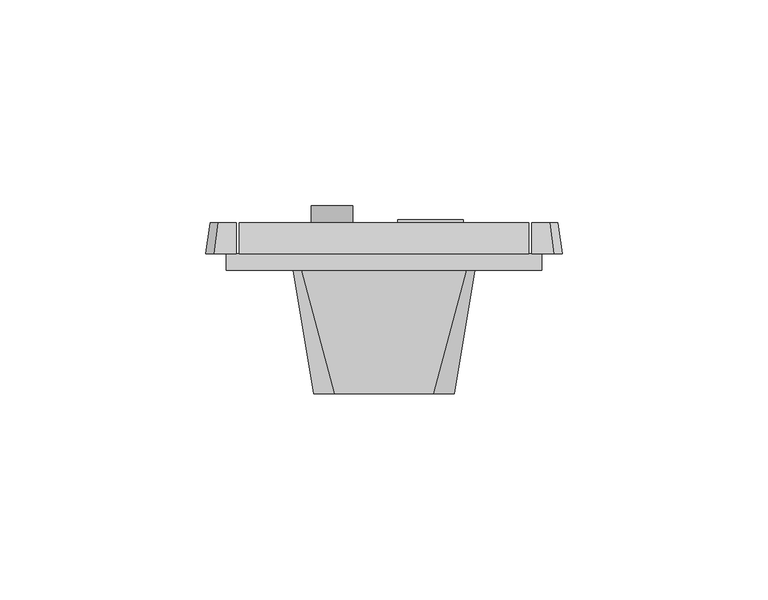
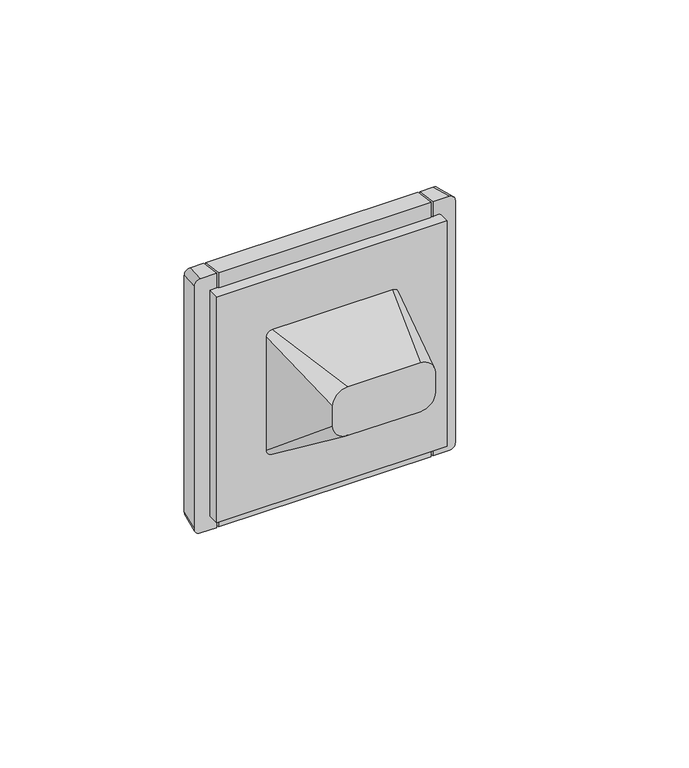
"""IFC4 building model written with IfcOpenShell, lengths in millimetres: proxy geometry, IEK_Forte&Piano_Розекта мультимедийная : TV+RJ45 к5E_FP136."""

from ifc_helpers import new_model, si_unit, point, frame, origin, place, context, project, spatial, polyline, circle_curve, trimmed, outline, extrude, faceted_brep, source, transform, mapped, element, save
from ifc_brep_helpers import plane_surface, cylinder_surface, revolved_surface, extruded_surface, spline_surface, advanced_brep


def electrical_fixtures_297cfc8e(model_context):
    return source(origin(), model_context, "Body", "SolidModel", [
        advanced_brep(
        [(-22.7, 11.5, 22.7), (22.7, 11.5, 22.7), (22.7, 11.5, -22.7), (-22.7, 11.5, -22.7), (21.1505633, 11.5, -10.479217), (21.1505633, 11.5, 10.625), (19.2793179, 11.5, 10.625), (3.3589657, 11.5, 10.625), (1.1505633, 11.5, 10.625), (1.1505633, 11.5, -10.479217), (-19.6284308, 11.5, 0.0), (-5.6284308, 11.5, 0.0), (-22.7, 4.0, 22.7), (-22.7, 4.0, -22.7), (22.7, 4.0, -22.7), (22.7, 4.0, 22.7), (-5.6284308, 4.0, 0.0), (-19.6284308, 4.0, 0.0), (21.1505633, 5.8684205, -4.8476375), (1.1505633, 5.8684205, -4.8476375), (3.3589657, 6.6767352, -2.626811), (19.2793179, 6.6767352, -2.626811), (19.2793179, 5.7370426, -2.2847909), (3.3589657, 5.7370426, -2.2847909), (3.3589657, 10.5603074, 10.9670201), (19.2793179, 10.5603074, 10.9670201)],
        [
            (0, 1),
            (1, 2),
            (2, 3),
            (3, 0),
            (4, 5),
            (5, 6),
            (6, 7),
            (7, 8),
            (8, 9),
            (9, 4),
            (10, 11, circle_curve(frame((-12.6284308, 11.5, 0.0), z_axis=(0.0, -1.0, 0.0), x_axis=(1.0, 0.0, 0.0)), 7.0)),
            (11, 10, circle_curve(frame((-12.6284308, 11.5, 0.0), z_axis=(0.0, -1.0, 0.0), x_axis=(1.0, 0.0, 0.0)), 7.0)),
            (12, 13),
            (13, 14),
            (14, 15),
            (15, 12),
            (16, 17, circle_curve(frame((-12.6284308, 4.0, 0.0), z_axis=(0.0, 1.0, 0.0), x_axis=(1.0, 0.0, 0.0)), 7.0)),
            (17, 16, circle_curve(frame((-12.6284308, 4.0, 0.0), z_axis=(0.0, 1.0, 0.0), x_axis=(1.0, 0.0, 0.0)), 7.0)),
            (3, 13),
            (12, 0),
            (2, 14),
            (1, 15),
            (18, 5),
            (4, 18),
            (19, 9),
            (8, 19),
            (19, 18),
            (7, 20),
            (20, 21),
            (21, 6),
            (22, 23),
            (23, 24),
            (24, 25),
            (25, 22),
            (25, 6),
            (21, 22),
            (24, 7),
            (23, 20),
            (10, 17),
            (16, 11),
        ],
        [
            plane_surface(frame((-22.7, 11.5, 22.7), z_axis=(0.0, 1.0, 0.0), x_axis=(0.0, 0.0, 1.0))),
            plane_surface(frame((-22.7, 4.0, 22.7), z_axis=(0.0, -1.0, 0.0), x_axis=(0.0, 0.0, -1.0))),
            plane_surface(frame((-22.7, 4.0, 22.7), z_axis=(-1.0, 0.0, 0.0), x_axis=(0.0, 1.0, 0.0))),
            plane_surface(frame((-22.7, 4.0, -22.7), z_axis=(0.0, 0.0, -1.0), x_axis=(0.0, 1.0, 0.0))),
            plane_surface(frame((22.7, 4.0, -22.7), z_axis=(1.0, 0.0, 0.0), x_axis=(0.0, 1.0, 0.0))),
            plane_surface(frame((22.7, 4.0, 22.7), z_axis=(0.0, 0.0, 1.0), x_axis=(0.0, 1.0, 0.0))),
            plane_surface(frame((21.1505633, 5.8684205, -4.8476375), z_axis=(-1.0000000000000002, 0.0, 0.0), x_axis=(0.0, 0.7071067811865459, -0.7071067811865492))),
            plane_surface(frame((1.1505633, 5.8684205, -4.8476375), z_axis=(1.0000000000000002, 0.0, 0.0), x_axis=(0.0, -0.7071067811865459, 0.7071067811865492))),
            plane_surface(frame((21.1505633, 5.8684205, -4.8476375), z_axis=(0.0, 0.7071067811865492, 0.7071067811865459), x_axis=(-1.0, 0.0, 0.0))),
            plane_surface(frame((21.1505633, 11.5, 10.625), z_axis=(0.0, 0.9396926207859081, -0.3420201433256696), x_axis=(-1.0, 0.0, 0.0))),
            plane_surface(frame((19.2793179, 10.5603074, 10.9670201), z_axis=(0.0, 0.9396926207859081, -0.34202014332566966), x_axis=(0.0, 0.34202014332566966, 0.9396926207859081))),
            plane_surface(frame((19.2793179, 5.7370426, -2.2847909), z_axis=(-1.0, 0.0, 0.0), x_axis=(0.0, 0.939692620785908, -0.34202014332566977))),
            plane_surface(frame((19.2793179, 10.5603074, 10.9670201), z_axis=(0.0, -0.34202014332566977, -0.939692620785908), x_axis=(0.0, 0.939692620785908, -0.34202014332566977))),
            plane_surface(frame((3.3589657, 10.5603074, 10.9670201), z_axis=(1.0, 0.0, 0.0), x_axis=(0.0, 0.939692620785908, -0.34202014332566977))),
            plane_surface(frame((3.3589657, 5.7370426, -2.2847909), z_axis=(0.0, 0.34202014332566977, 0.939692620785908), x_axis=(0.0, 0.939692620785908, -0.34202014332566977))),
            revolved_surface(polyline([(-5.6284308, 4.0, 0.0), (-5.6284308, 11.5, 0.0)]), (-12.6284308, 11.5, 0.0), (0.0, -1.0, 0.0)),
        ],
        [
            (0, [[1, 2, 3, 4], [5, 6, 7, 8, 9, 10], [11, 12]]),
            (1, [[13, 14, 15, 16], [17, 18]]),
            (2, [[-4, 19, -13, 20]]),
            (3, [[-3, 21, -14, -19]]),
            (4, [[-2, 22, -15, -21]]),
            (5, [[-1, -20, -16, -22]]),
            (6, [[23, -5, 24]]),
            (7, [[25, -9, 26]]),
            (8, [[-24, -10, -25, 27]]),
            (9, [[-23, -27, -26, -8, 28, 29, 30, -6]]),
            (10, [[31, 32, 33, 34]]),
            (11, [[-34, 35, -30, 36]]),
            (12, [[-33, 37, -7, -35]]),
            (13, [[-32, 38, -28, -37]]),
            (14, [[-31, -36, -29, -38]]),
            (15, [[39, -17, 40, -11]]),
            (15, [[-39, -12, -40, -18]]),
        ],
    ),
        extrude(outline(polyline([(0.0, -2.0472767), (0.0, 0.0), (15.9203522, 0.0), (15.9203522, -2.0472767), (0.0, -2.0472767)])), frame((3.3589657, 11.9018122, 8.6669379), z_axis=(0.0, 0.3420201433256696, 0.9396926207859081), x_axis=(1.0, 0.0, 0.0)), (0.0, 0.0, 1.0), 1.1350324),
        advanced_brep(
        [(-12.6284308, 14.7712404, 0.0), (-11.7257819, 14.7712404, 0.0), (-13.5310797, 14.7712404, 0.0), (-13.5310797, 4.0, 0.0), (-11.7257819, 4.0, 0.0), (-12.6284308, 4.0, 0.0)],
        [
            (0, 1),
            (1, 2, circle_curve(frame((-12.6284308, 14.7712404, 0.0), z_axis=(0.0, 1.0, 0.0), x_axis=(1.0, 0.0, 0.0)), 0.9026489)),
            (2, 0),
            (2, 1, circle_curve(frame((-12.6284308, 14.7712404, 0.0), z_axis=(0.0, 1.0, 0.0), x_axis=(1.0, 0.0, 0.0)), 0.9026489)),
            (3, 4, circle_curve(frame((-12.6284308, 4.0, 0.0), z_axis=(0.0, -1.0, 0.0), x_axis=(1.0, 0.0, 0.0)), 0.9026489)),
            (4, 5),
            (5, 3),
            (4, 3, circle_curve(frame((-12.6284308, 4.0, 0.0), z_axis=(0.0, -1.0, 0.0), x_axis=(1.0, 0.0, 0.0)), 0.9026489)),
            (1, 4),
            (3, 2),
        ],
        [
            plane_surface(frame((-12.6284308, 14.7712404, 0.0), z_axis=(0.0, 1.0, 0.0), x_axis=(1.0, 0.0, 0.0))),
            plane_surface(frame((-12.6284308, 4.0, 0.0), z_axis=(0.0, -1.0, 0.0), x_axis=(1.0, 0.0, 0.0))),
            cylinder_surface(frame((-12.6284308, 1.5, 0.0), z_axis=(0.0, 1.0, 0.0), x_axis=(1.0, 0.0, 0.0)), 0.9026489),
        ],
        [
            (0, [[1, 2, 3]]),
            (0, [[-3, 4, -1]]),
            (1, [[5, 6, 7]]),
            (1, [[8, -7, -6]]),
            (2, [[-2, 9, -5, 10]]),
            (2, [[-4, -10, -8, -9]]),
        ],
    ),
        advanced_brep(
        [(-17.6284308, 4.0, 0.0), (-7.6284308, 4.0, 0.0), (-8.6079002, 4.0, 0.0), (-16.6489614, 4.0, 0.0), (-8.6079002, 12.5, 0.0), (-16.6489614, 12.5, 0.0), (-8.6079002, 15.6430385, 0.0), (-16.6489614, 15.6430385, 0.0), (-7.6284308, 15.6430385, 0.0), (-17.6284308, 15.6430385, 0.0)],
        [
            (0, 1, circle_curve(frame((-12.6284308, 4.0, 0.0), z_axis=(0.0, -1.0, 0.0), x_axis=(1.0, 0.0, 0.0)), 5.0)),
            (1, 2),
            (2, 3, circle_curve(frame((-12.6284308, 4.0, 0.0), z_axis=(0.0, 1.0, 0.0), x_axis=(1.0, 0.0, 0.0)), 4.0205306)),
            (3, 0),
            (1, 0, circle_curve(frame((-12.6284308, 4.0, 0.0), z_axis=(0.0, -1.0, 0.0), x_axis=(1.0, 0.0, 0.0)), 5.0)),
            (3, 2, circle_curve(frame((-12.6284308, 4.0, 0.0), z_axis=(0.0, 1.0, 0.0), x_axis=(1.0, 0.0, 0.0)), 4.0205306)),
            (2, 4),
            (4, 5, circle_curve(frame((-12.6284308, 12.5, 0.0), z_axis=(0.0, 1.0, 0.0), x_axis=(1.0, 0.0, 0.0)), 4.0205306)),
            (5, 3),
            (5, 4, circle_curve(frame((-12.6284308, 12.5, 0.0), z_axis=(0.0, 1.0, 0.0), x_axis=(1.0, 0.0, 0.0)), 4.0205306)),
            (4, 6),
            (6, 7, circle_curve(frame((-12.6284308, 15.6430385, 0.0), z_axis=(0.0, 1.0, 0.0), x_axis=(1.0, 0.0, 0.0)), 4.0205306)),
            (7, 5),
            (7, 6, circle_curve(frame((-12.6284308, 15.6430385, 0.0), z_axis=(0.0, 1.0, 0.0), x_axis=(1.0, 0.0, 0.0)), 4.0205306)),
            (6, 8),
            (8, 9, circle_curve(frame((-12.6284308, 15.6430385, 0.0), z_axis=(0.0, 1.0, 0.0), x_axis=(1.0, 0.0, 0.0)), 5.0)),
            (9, 7),
            (9, 8, circle_curve(frame((-12.6284308, 15.6430385, 0.0), z_axis=(0.0, 1.0, 0.0), x_axis=(1.0, 0.0, 0.0)), 5.0)),
            (8, 1),
            (0, 9),
        ],
        [
            plane_surface(frame((-12.6284308, 4.0, 0.0), z_axis=(0.0, -1.0, 0.0), x_axis=(1.0, 0.0, 0.0))),
            revolved_surface(polyline([(-8.6079002, 12.5, 0.0), (-8.6079002, 4.0, 0.0)]), (-12.6284308, 11.5, 0.0), (0.0, 1.0, 0.0)),
            revolved_surface(polyline([(-8.6079002, 15.6430385, 0.0), (-8.6079002, 12.5, 0.0)]), (-12.6284308, 11.5, 0.0), (0.0, 1.0, 0.0)),
            plane_surface(frame((-12.6284308, 15.6430385, 0.0), z_axis=(0.0, 1.0, 0.0), x_axis=(1.0, 0.0, 0.0))),
            cylinder_surface(frame((-12.6284308, 11.5, 0.0), z_axis=(0.0, 1.0, 0.0), x_axis=(1.0, 0.0, 0.0)), 5.0),
        ],
        [
            (0, [[1, 2, 3, 4]]),
            (0, [[5, -4, 6, -2]]),
            (1, [[-3, 7, 8, 9]]),
            (1, [[-6, -9, 10, -7]]),
            (2, [[-8, 11, 12, 13]]),
            (2, [[-10, -13, 14, -11]]),
            (3, [[-12, 15, 16, 17]]),
            (3, [[-14, -17, 18, -15]]),
            (4, [[-16, 19, -1, 20]]),
            (4, [[-18, -20, -5, -19]]),
        ],
    ),
        faceted_brep([(35.2, 11.5, 43.5), (35.2, 4.0, 44.5), (35.2, 4.0, -44.5), (35.2, 11.5, -43.5), (-35.2, 11.5, 43.5), (-35.2, 11.5, -43.5), (-35.2, 4.0, -44.5), (-35.2, 4.0, 44.5), (-23.5, 4.0, 23.5), (23.5, 4.0, 23.5), (23.5, 4.0, -23.5), (-23.5, 4.0, -23.5), (23.5, 11.5, 23.5), (-23.5, 11.5, 23.5), (-23.5, 11.5, -23.5), (23.5, 11.5, -23.5)], [[[0, 1, 2, 3]], [[4, 5, 6, 7]], [[1, 0, 4, 7]], [[2, 1, 7, 6], [8, 9, 10, 11]], [[3, 2, 6, 5]], [[0, 3, 5, 4], [12, 13, 14, 15]], [[8, 13, 12, 9]], [[9, 12, 15, 10]], [[10, 15, 14, 11]], [[13, 8, 11, 14]]]),
        advanced_brep(
        [(35.8576533, 11.5, 43.5), (35.8576533, 11.5, -43.5), (35.8576533, 4.0, -44.5), (35.8576533, 4.0, -39.5), (35.8576533, 4.0, 39.5), (35.8576533, 4.0, 44.5), (-35.8576533, 11.5, -43.5), (-35.8576533, 11.5, 43.5), (-35.8576533, 4.0, 44.5), (-35.8576533, 4.0, 39.5), (-35.8576533, 4.0, -39.5), (-35.8576533, 4.0, -44.5), (40.25, 11.5, 43.5), (42.25, 11.5, 41.5), (42.25, 11.5, -41.5), (40.25, 11.5, -43.5), (-40.25, 11.5, -43.5), (-42.25, 11.5, -41.5), (-42.25, 11.5, 41.5), (-40.25, 11.5, 43.5), (-41.25, 4.0, 44.5), (-43.25, 4.0, 42.5), (-43.25, 4.0, -42.5), (-41.25, 4.0, -44.5), (-38.25, 4.0, -39.5), (-38.25, 4.0, 39.5), (41.25, 4.0, -44.5), (43.25, 4.0, -42.5), (43.25, 4.0, 42.5), (41.25, 4.0, 44.5), (38.25, 4.0, 39.5), (38.25, 4.0, -39.5), (-38.25, 0.0, 39.5), (-38.25, 0.0, -39.5), (38.25, 0.0, -39.5), (38.25, 0.0, 39.5)],
        [
            (0, 1),
            (1, 2),
            (2, 3),
            (3, 4),
            (4, 5),
            (5, 0),
            (6, 7),
            (7, 8),
            (8, 9),
            (9, 10),
            (10, 11),
            (11, 6),
            (12, 13, circle_curve(frame((40.25, 11.5, 41.5), z_axis=(0.0, 1.0, 0.0), x_axis=(-1.0, 0.0, 0.0)), 2.0)),
            (13, 14),
            (14, 15, circle_curve(frame((40.25, 11.5, -41.5), z_axis=(0.0, 1.0, 0.0), x_axis=(-1.0, 0.0, 0.0)), 2.0)),
            (15, 1),
            (0, 12),
            (16, 17, circle_curve(frame((-40.25, 11.5, -41.5), z_axis=(0.0, 1.0, 0.0), x_axis=(-1.0, 0.0, 0.0)), 2.0)),
            (17, 18),
            (18, 19, circle_curve(frame((-40.25, 11.5, 41.5), z_axis=(0.0, 1.0, 0.0), x_axis=(-1.0, 0.0, 0.0)), 2.0)),
            (19, 7),
            (6, 16),
            (20, 21, circle_curve(frame((-41.25, 4.0, 42.5), z_axis=(0.0, -1.0, 0.0), x_axis=(-1.0, 0.0, 0.0)), 2.0)),
            (21, 22),
            (22, 23, circle_curve(frame((-41.25, 4.0, -42.5), z_axis=(0.0, -1.0, 0.0), x_axis=(-1.0, 0.0, 0.0)), 2.0)),
            (23, 11),
            (10, 24),
            (24, 25),
            (25, 9),
            (8, 20),
            (26, 27, circle_curve(frame((41.25, 4.0, -42.5), z_axis=(0.0, -1.0, 0.0), x_axis=(-1.0, 0.0, 0.0)), 2.0)),
            (27, 28),
            (28, 29, circle_curve(frame((41.25, 4.0, 42.5), z_axis=(0.0, -1.0, 0.0), x_axis=(-1.0, 0.0, 0.0)), 2.0)),
            (29, 5),
            (4, 30),
            (30, 31),
            (31, 3),
            (2, 26),
            (29, 12),
            (19, 20),
            (28, 13),
            (27, 14),
            (26, 15),
            (23, 16),
            (22, 17),
            (21, 18),
            (3, 10),
            (9, 4),
            (32, 33),
            (33, 34),
            (34, 35),
            (35, 32),
            (32, 25),
            (24, 33),
            (31, 34),
            (30, 35),
        ],
        [
            plane_surface(frame((35.8576533, 11.5, 44.5), z_axis=(-1.0, 0.0, 0.0), x_axis=(0.0, -1.0, 0.0))),
            plane_surface(frame((-35.8576533, 11.5, -44.5), z_axis=(1.0, 0.0, 0.0), x_axis=(0.0, -1.0, 0.0))),
            plane_surface(frame((0.0, 11.5, 0.0), z_axis=(0.0, 1.0, 0.0), x_axis=(1.0, 0.0, 0.0))),
            plane_surface(frame((0.0, 4.0, 0.0), z_axis=(0.0, -1.0, 0.0), x_axis=(1.0, 0.0, 0.0))),
            plane_surface(frame((0.0, 4.0, 44.5), z_axis=(0.0, 0.13216372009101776, 0.9912279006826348), x_axis=(1.0, 0.0, 0.0))),
            extruded_surface(trimmed(circle_curve(frame((41.25, 4.0, 42.5), z_axis=(0.0, 1.0, 0.0), x_axis=(-1.0, 0.0, 0.0)), 2.0), [point((41.25, 4.0, 44.5))], [point((43.25, 4.0, 42.5))], True, "CARTESIAN"), (-1.0, 7.5, -1.0), 7.632168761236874),
            plane_surface(frame((43.25, 4.0, 0.0), z_axis=(0.9912279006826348, 0.13216372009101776, 0.0), x_axis=(0.0, 0.0, -1.0))),
            extruded_surface(trimmed(circle_curve(frame((41.25, 4.0, -42.5), z_axis=(0.0, 1.0, 0.0), x_axis=(-1.0, 0.0, 0.0)), 2.0), [point((43.25, 4.0, -42.5))], [point((41.25, 4.0, -44.5))], True, "CARTESIAN"), (-1.0, 7.5, 1.0), 7.632168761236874),
            plane_surface(frame((0.0, 4.0, -44.5), z_axis=(0.0, 0.13216372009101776, -0.9912279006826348), x_axis=(-1.0, 0.0, 0.0))),
            extruded_surface(trimmed(circle_curve(frame((-41.25, 4.0, -42.5), z_axis=(0.0, 1.0, 0.0), x_axis=(-1.0, 0.0, 0.0)), 2.0), [point((-41.25, 4.0, -44.5))], [point((-43.25, 4.0, -42.5))], True, "CARTESIAN"), (1.0, 7.5, 1.0), 7.632168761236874),
            plane_surface(frame((-43.25, 4.0, 0.0), z_axis=(-0.9912279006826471, 0.13216372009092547, 0.0), x_axis=(0.0, 0.0, 1.0))),
            extruded_surface(trimmed(circle_curve(frame((-41.25, 4.0, 42.5), z_axis=(0.0, 1.0, 0.0), x_axis=(-1.0, 0.0, 0.0)), 2.0), [point((-43.25, 4.0, 42.5))], [point((-41.25, 4.0, 44.5))], True, "CARTESIAN"), (1.0, 7.5, -1.0), 7.632168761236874),
            plane_surface(frame((-38.25, 4.0, 39.5), z_axis=(0.0, 1.0, 0.0), x_axis=(0.0, 0.0, 1.0))),
            plane_surface(frame((-38.25, 0.0, 39.5), z_axis=(0.0, -1.0, 0.0), x_axis=(0.0, 0.0, -1.0))),
            plane_surface(frame((-38.25, 0.0, 39.5), z_axis=(-1.0, 0.0, 0.0), x_axis=(0.0, 1.0, 0.0))),
            plane_surface(frame((-38.25, 0.0, -39.5), z_axis=(0.0, 0.0, -1.0), x_axis=(0.0, 1.0, 0.0))),
            plane_surface(frame((38.25, 0.0, -39.5), z_axis=(1.0, 0.0, 0.0), x_axis=(0.0, 1.0, 0.0))),
            plane_surface(frame((38.25, 0.0, 39.5), z_axis=(0.0, 0.0, 1.0), x_axis=(0.0, 1.0, 0.0))),
        ],
        [
            (0, [[1, 2, 3, 4, 5, 6]]),
            (1, [[7, 8, 9, 10, 11, 12]]),
            (2, [[13, 14, 15, 16, -1, 17]]),
            (2, [[18, 19, 20, 21, -7, 22]]),
            (3, [[23, 24, 25, 26, -11, 27, 28, 29, -9, 30]]),
            (3, [[31, 32, 33, 34, -5, 35, 36, 37, -3, 38]]),
            (4, [[39, -17, -6, -34]]),
            (4, [[40, -30, -8, -21]]),
            (5, [[-13, -39, -33, 41]]),
            (6, [[-14, -41, -32, 42]]),
            (7, [[-15, -42, -31, 43]]),
            (8, [[-43, -38, -2, -16]]),
            (8, [[44, -22, -12, -26]]),
            (9, [[-18, -44, -25, 45]]),
            (10, [[-19, -45, -24, 46]]),
            (11, [[-20, -46, -23, -40]]),
            (12, [[47, -10, 48, -4]]),
            (13, [[49, 50, 51, 52]]),
            (14, [[-49, 53, -28, 54]]),
            (15, [[-50, -54, -27, -47, -37, 55]]),
            (16, [[-51, -55, -36, 56]]),
            (17, [[-52, -56, -35, -48, -29, -53]]),
        ],
    ),
        advanced_brep(
        [(-12.0, -30.0, 17.0), (-17.0, -30.0, 12.0), (-17.0, -30.0, 5.0), (-12.0, -30.0, 0.0), (12.0, -30.0, 0.0), (17.0, -30.0, 5.0), (17.0, -30.0, 12.0), (12.0, -30.0, 17.0), (-20.0, 0.0, 22.0), (20.0, 0.0, 22.0), (22.0, 0.0, 20.0), (22.0, 0.0, -20.0), (20.0, 0.0, -22.0), (-20.0, 0.0, -22.0), (-22.0, 0.0, -20.0), (-22.0, 0.0, 20.0)],
        [
            (0, 1, circle_curve(frame((-12.0, -30.0, 12.0), z_axis=(0.0, -1.0, 0.0), x_axis=(1.0, 0.0, 0.0)), 5.0)),
            (1, 2),
            (2, 3, circle_curve(frame((-12.0, -30.0, 5.0), z_axis=(0.0, -1.0, 0.0), x_axis=(1.0, 0.0, 0.0)), 5.0)),
            (3, 4),
            (4, 5, circle_curve(frame((12.0, -30.0, 5.0), z_axis=(0.0, -1.0, 0.0), x_axis=(1.0, 0.0, 0.0)), 5.0)),
            (5, 6),
            (6, 7, circle_curve(frame((12.0, -30.0, 12.0), z_axis=(0.0, -1.0, 0.0), x_axis=(1.0, 0.0, 0.0)), 5.0)),
            (7, 0),
            (8, 9),
            (9, 10, circle_curve(frame((20.0, 0.0, 20.0), z_axis=(0.0, 1.0, 0.0), x_axis=(1.0, 0.0, 0.0)), 2.0)),
            (10, 11),
            (11, 12, circle_curve(frame((20.0, 0.0, -20.0), z_axis=(0.0, 1.0, 0.0), x_axis=(1.0, 0.0, 0.0)), 2.0)),
            (12, 13),
            (13, 14, circle_curve(frame((-20.0, 0.0, -20.0), z_axis=(0.0, 1.0, 0.0), x_axis=(1.0, 0.0, 0.0)), 2.0)),
            (14, 15),
            (15, 8, circle_curve(frame((-20.0, 0.0, 20.0), z_axis=(0.0, 1.0, 0.0), x_axis=(1.0, 0.0, 0.0)), 2.0)),
            (8, 0),
            (7, 9),
            (6, 10),
            (5, 11),
            (4, 12),
            (3, 13),
            (2, 14),
            (1, 15),
        ],
        [
            plane_surface(frame((0.0, -30.0, 8.5), z_axis=(0.0, -1.0, 0.0), x_axis=(-1.0, 0.0, 0.0))),
            plane_surface(frame((0.0, 0.0, 0.0), z_axis=(0.0, 1.0, 0.0), x_axis=(-1.0, 0.0, 0.0))),
            plane_surface(frame((0.0, 0.0, 22.0), z_axis=(0.0, -0.16439898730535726, 0.9863939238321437), x_axis=(-1.0, 0.0, 0.0))),
            spline_surface(2, 1, [[(22.0, 0.0, 20.0), (17.0, -30.0, 12.0)], [(22.0, 0.0, 22.0), (17.0, -30.0, 17.0)], [(20.0, 0.0, 22.0), (12.0, -30.0, 17.0)]], [3, 3], [2, 2], [0.0, 1.0], [0.0, 1.0], weights=[[1.0, 1.0], [0.7071067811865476, 0.7071067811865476], [1.0, 1.0]]),
            plane_surface(frame((22.0, 0.0, 0.0), z_axis=(0.9863939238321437, -0.1643989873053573, 0.0), x_axis=(0.0, 0.0, 1.0))),
            spline_surface(2, 1, [[(20.0, 0.0, -22.0), (12.0, -30.0, 0.0)], [(22.0, 0.0, -22.0), (17.0, -30.0, 0.0)], [(22.0, 0.0, -20.0), (17.0, -30.0, 5.0)]], [3, 3], [2, 2], [0.0, 1.0], [0.0, 1.0], weights=[[1.0, 1.0], [0.7071067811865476, 0.7071067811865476], [1.0, 1.0]]),
            plane_surface(frame((0.0, 0.0, -22.0), z_axis=(0.0, -0.591363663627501, -0.8064049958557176), x_axis=(1.0, 0.0, 0.0))),
            spline_surface(2, 1, [[(-22.0, 0.0, -20.0), (-17.0, -30.0, 5.0)], [(-22.0, 0.0, -22.0), (-17.0, -30.0, 0.0)], [(-20.0, 0.0, -22.0), (-12.0, -30.0, 0.0)]], [3, 3], [2, 2], [0.0, 1.0], [0.0, 1.0], weights=[[1.0, 1.0], [0.7071067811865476, 0.7071067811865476], [1.0, 1.0]]),
            plane_surface(frame((-22.0, 0.0, 0.0), z_axis=(-0.9863939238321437, -0.1643989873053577, 0.0), x_axis=(0.0, 0.0, -1.0))),
            spline_surface(2, 1, [[(-20.0, 0.0, 22.0), (-12.0, -30.0, 17.0)], [(-22.0, 0.0, 22.0), (-17.0, -30.0, 17.0)], [(-22.0, 0.0, 20.0), (-17.0, -30.0, 12.0)]], [3, 3], [2, 2], [0.0, 1.0], [0.0, 1.0], weights=[[1.0, 1.0], [0.7071067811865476, 0.7071067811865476], [1.0, 1.0]]),
        ],
        [
            (0, [[1, 2, 3, 4, 5, 6, 7, 8]]),
            (1, [[9, 10, 11, 12, 13, 14, 15, 16]]),
            (2, [[-9, 17, -8, 18]]),
            (3, [[-10, -18, -7, 19]]),
            (4, [[-11, -19, -6, 20]]),
            (5, [[-12, -20, -5, 21]]),
            (6, [[-13, -21, -4, 22]]),
            (7, [[-14, -22, -3, 23]]),
            (8, [[-15, -23, -2, 24]]),
            (9, [[-16, -24, -1, -17]]),
        ],
    ),
    ])


if __name__ == "__main__":
    model = new_model("IFC4")
    model_context = context("Model", 3, world=origin())
    ifc_project = project(units=[si_unit("LENGTHUNIT", "METRE", prefix="MILLI")], contexts=[model_context])
    site = spatial("IfcSite", under=ifc_project)
    building = spatial("IfcBuilding", under=site)
    placement = place(None, origin())
    electrical_fixtures_shape = electrical_fixtures_297cfc8e(model_context)
    element("IfcBuildingElementProxy", 1, Name="IEK_Forte&Piano_Розекта мультимедийная : TV+RJ45 к5E_FP136", ObjectType="IEK_Forte&Piano_Розекта мультимедийная : TV+RJ45 к5E_FP136", at=placement, inside=building, context=model_context, shape_type="MappedRepresentation", body=[
        mapped(electrical_fixtures_shape, transform((0.0, 0.0, 0.0), x_axis=(1.0, 0.0, 0.0), y_axis=(0.0, 1.0, 0.0), z_axis=(0.0, 0.0, 1.0))),
    ])
    save(model, "model.ifc")
